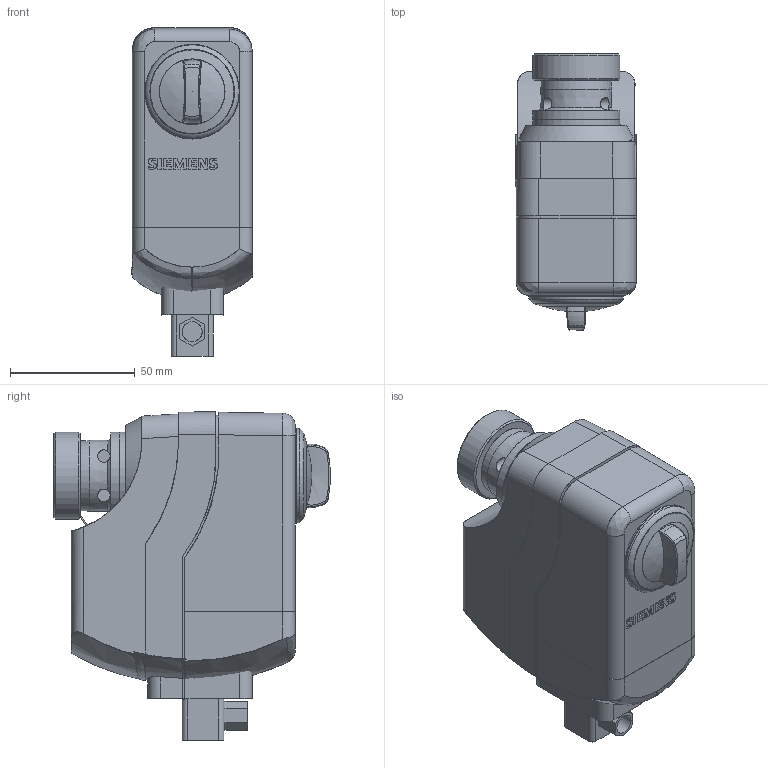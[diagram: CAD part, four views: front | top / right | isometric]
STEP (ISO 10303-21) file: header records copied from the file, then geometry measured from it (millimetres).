
FILE_DESCRIPTION(/* description */ (''),/* implementation_level */ '2;1');
FILE_NAME(/* name */ 'SSC31_61_81.stp',/* time_stamp */ '2013-09-30T14:07:58+02:00',/* author */ (''),/* organization */ (''),/* preprocessor_version */ 'ST-DEVELOPER v11',/* originating_system */ 'SIEMENS UGS NX 6.0',/* authorisation */ '');
FILE_SCHEMA (('AUTOMOTIVE_DESIGN { 1 0 10303 214 1 1 1 1 }'));
Length unit declared in the file: millimetre
Products named in the file (1): z0022FDBxs6e
Bounding box: 48.88 x 110.93 x 131.85 mm (x, y, z)
Surface area: 83142.2 mm2 (no closed solid volume)
Topology: 0 solids, 310 shells, 310 faces, 1820 edges, 1823 vertices
Faces by surface type: plane 165, cylinder 87, bspline 38, cone 14, torus 6
Full cylindrical faces by diameter (mm): 5.02 x4, 7.994 x1, 26.9 x1, 34.976 x2, 35.017 x1
Entity records: 23844 total; most frequent: CARTESIAN_POINT 9503, DIRECTION 1787, VERTEX_POINT 1764, ORIENTED_EDGE 1762, EDGE_CURVE 1762, LINE 777, VECTOR 777, B_SPLINE_CURVE_WITH_KNOTS 746
